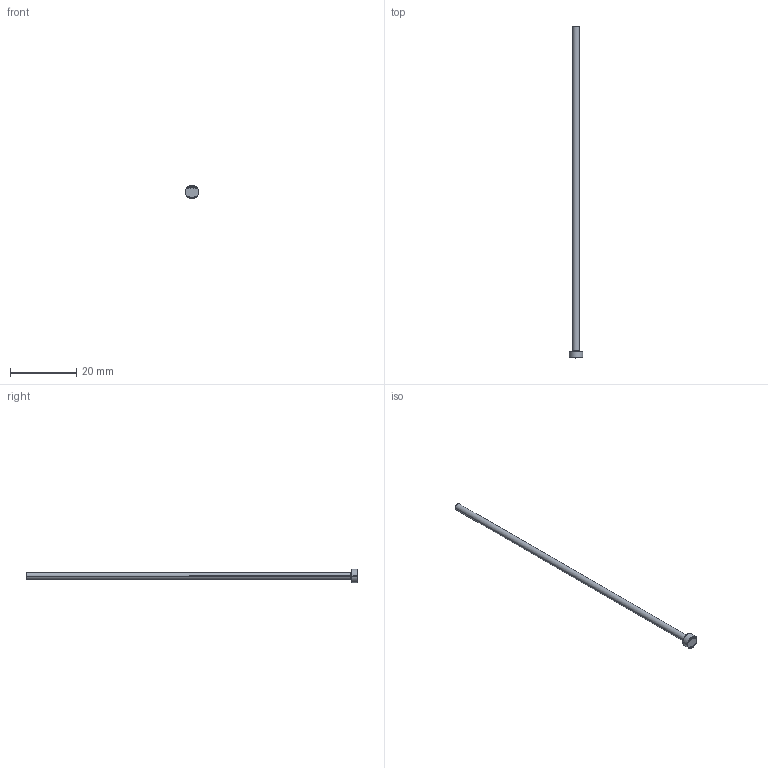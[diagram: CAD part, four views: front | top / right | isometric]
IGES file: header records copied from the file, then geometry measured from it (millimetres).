
Start section: SolidWorks IGES file using analytic representation for surfaces
Global section: file name: C:\Users\User\Downloads\Matripeça 31-08 tar\PB - PINO EXTRATOR TIPO _B_ (CATÁLOGO)\PB02,0\PB02,0100.IGS; native system: SolidWorks 2024; preprocessor: SolidWorks 2024; author: User; date: 260901.140224; units: millimetre
Bounding box: 4 x 100 x 4 mm (x, y, z)
Surface area: 668.7 mm2 (no closed solid volume)
Topology: 0 solids, 0 shells, 394 faces, 2846 edges, 2846 vertices
Faces by surface type: bspline 380, revolution 14
